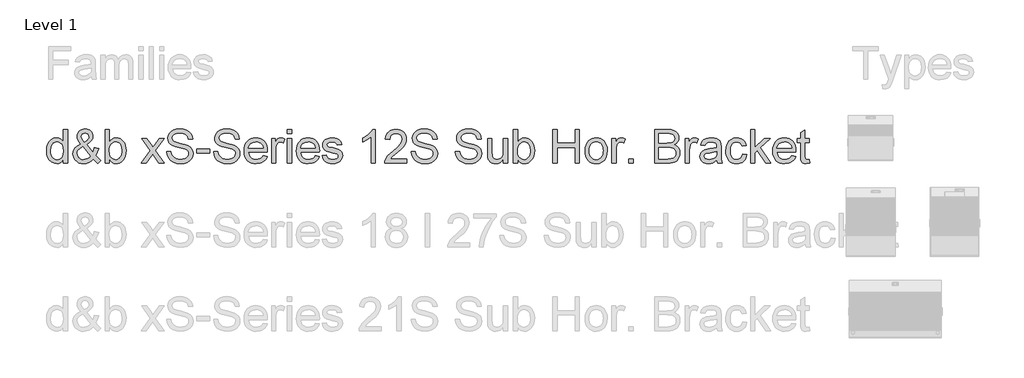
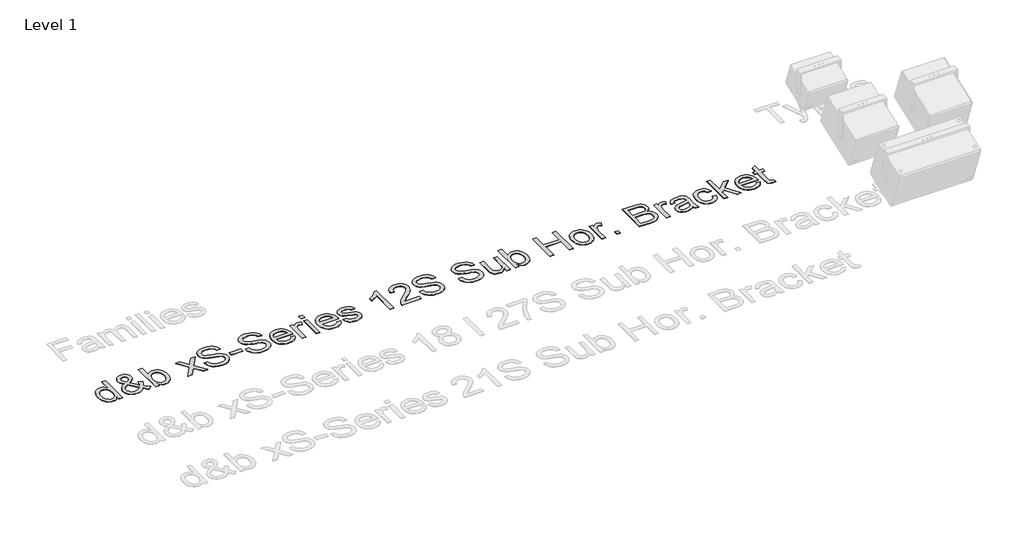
# One storey, part 16 of 55: 1 proxy.
"""IFC4 building model written with IfcOpenShell, lengths in millimetres."""

import ifcopenshell
import ifcopenshell.guid

model = None  # the IFC model being written
_history = None  # IfcOwnerHistory: only IFC2X3 demands one
_inside = {}  # id of a spatial element -> (the spatial element, [elements in it])
_under = {}  # id of a project, library or spatial element -> (it, [spatial elements below it])
_declared = {}  # id of a project -> (the project, [libraries it declares])
_typed = {}  # id of a type object -> (the type object, [elements of that type])
_made_of = {}  # id of a material, layer set ... -> (it, [elements and type objects made of it])


def new_model(schema):
    """Start an empty IFC model of exactly this schema.

    Asked for "IFC4X3", IfcOpenShell would pick the latest addendum, in which some entities
    have other attributes; the version numbers below select the first issue.
    IFC2X3 requires an IfcOwnerHistory on every rooted entity: one is made here for all.
    """
    global model, _history
    if schema == "IFC4X3":
        model = ifcopenshell.file(schema_version=(4, 3, 0, 0))
    else:
        model = ifcopenshell.file(schema=schema)
    _inside.clear()
    _under.clear()
    _declared.clear()
    _typed.clear()
    _made_of.clear()
    _history = None
    if model.schema == "IFC2X3":
        org = make("IfcOrganization", Name="unknown")
        user = make(
            "IfcPersonAndOrganization",
            ThePerson=make("IfcPerson", FamilyName="unknown"),
            TheOrganization=org,
        )
        app = make(
            "IfcApplication",
            ApplicationDeveloper=org,
            Version="unknown",
            ApplicationFullName="unknown",
            ApplicationIdentifier="unknown",
        )
        _history = make(
            "IfcOwnerHistory",
            OwningUser=user,
            OwningApplication=app,
            ChangeAction="ADDED",
            CreationDate=0,
        )
    return model


def make(cls, **values):
    """One entity of the class cls with the attributes given. An attribute that is None is left unset."""
    return model.create_entity(
        cls, **{name: value for name, value in values.items() if value is not None}
    )


def rooted(cls, **values):
    """An entity with a GlobalId (a new one), such as an element, a storey or a relation."""
    return make(cls, GlobalId=ifcopenshell.guid.new(), OwnerHistory=_history, **values)


def si_unit(unit_type, name, prefix=None):
    """IfcSIUnit, for example si_unit("LENGTHUNIT", "METRE", prefix="MILLI")."""
    return make("IfcSIUnit", UnitType=unit_type, Prefix=prefix, Name=name)


def assignment(units):
    """IfcUnitAssignment: the units of a project."""
    return None if units is None else make("IfcUnitAssignment", Units=units)


def point(xyz):
    """IfcCartesianPoint."""
    return None if xyz is None else make("IfcCartesianPoint", Coordinates=xyz)


def direction(xyz):
    """IfcDirection."""
    return None if xyz is None else make("IfcDirection", DirectionRatios=xyz)


def frame(location, z_axis=None, x_axis=None):
    """IfcAxis2Placement3D, a coordinate frame: its origin and axes. An axis left out is left unset."""
    return make(
        "IfcAxis2Placement3D",
        Location=point(location),
        Axis=direction(z_axis),
        RefDirection=direction(x_axis),
    )


def origin():
    """The frame at (0, 0, 0) with its axes left unset."""
    return frame((0.0, 0.0, 0.0))


def origin_with_axes():
    """The frame at (0, 0, 0) with the z axis (0, 0, 1) and the x axis (1, 0, 0) written out."""
    return frame((0.0, 0.0, 0.0), z_axis=(0.0, 0.0, 1.0), x_axis=(1.0, 0.0, 0.0))


def place(relative_to, where):
    """IfcLocalPlacement: puts the frame where relative to a parent placement (None: the world)."""
    return make(
        "IfcLocalPlacement", PlacementRelTo=relative_to, RelativePlacement=where
    )


def context(
    kind, dimensions, precision=None, world=None, true_north=None, identifier=None
):
    """IfcGeometricRepresentationContext, for example the 3D "Model" context."""
    return make(
        "IfcGeometricRepresentationContext",
        ContextIdentifier=identifier,
        ContextType=kind,
        CoordinateSpaceDimension=dimensions,
        Precision=precision,
        WorldCoordinateSystem=world,
        TrueNorth=true_north,
    )


def project(units=None, contexts=None):
    """IfcProject with its units and contexts."""
    return rooted(
        "IfcProject",
        Name="project",
        RepresentationContexts=contexts,
        UnitsInContext=assignment(units),
    )


def spatial(cls, under=None, at=None, **own):
    """A site, building, storey or space (cls), placed at a placement, below another one or the project."""
    s = rooted(cls, ObjectPlacement=at, **own)
    if under is not None:
        _under.setdefault(under.id(), (under, []))[1].append(s)
    return s


def polyline(points):
    """IfcPolyline through the points."""
    return make("IfcPolyline", Points=[point(p) for p in points])


def outline(outer, holes=None, kind="AREA"):
    """IfcArbitraryClosedProfileDef: a profile drawn as a closed curve; with holes, ...WithVoids."""
    if holes is None:
        return make("IfcArbitraryClosedProfileDef", ProfileType=kind, OuterCurve=outer)
    return make(
        "IfcArbitraryProfileDefWithVoids",
        ProfileType=kind,
        OuterCurve=outer,
        InnerCurves=holes,
    )


def extrude(swept, where, along, depth):
    """IfcExtrudedAreaSolid: the profile swept, set in the frame where, extruded along a direction by depth."""
    return make(
        "IfcExtrudedAreaSolid",
        SweptArea=swept,
        Position=where,
        ExtrudedDirection=direction(along),
        Depth=depth,
    )


def shape(context_of_items, identifier, shape_type, items):
    """IfcShapeRepresentation: the items that make up one representation, for example the "Body"."""
    return make(
        "IfcShapeRepresentation",
        ContextOfItems=context_of_items,
        RepresentationIdentifier=identifier,
        RepresentationType=shape_type,
        Items=items,
    )


def made_of(thing, what):
    """Note that an element or type object is made of a material, layer set ...; save() writes the relation."""
    if what is not None:
        _made_of.setdefault(what.id(), (what, []))[1].append(thing)
    return thing


def element(
    cls,
    number,
    at=None,
    inside=None,
    cuts=None,
    type_object=None,
    material=None,
    context=None,
    identifier="Body",
    shape_type=None,
    held_by="IfcProductDefinitionShape",
    body=None,
    shapes=None,
    **own,
):
    """One element of the class cls, such as IfcWall. Its Tag is "e" and its number.

    at: its placement. inside: the storey or other place that contains it. cuts: it is an
    opening in that element (IfcRelVoidsElement). A single representation is given by context,
    identifier, shape_type and body (its items); several are given by shapes. held_by: the class
    of the entity that holds the representations. save() writes the other relations.
    """
    e = rooted(cls, Tag="e%d" % number, ObjectPlacement=at, **own)
    if body is not None:
        shapes = [shape(context, identifier, shape_type, body)]
    if shapes is not None:
        e.Representation = make(held_by, Representations=shapes)
    if inside is not None:
        _inside.setdefault(inside.id(), (inside, []))[1].append(e)
    if cuts is not None:
        rooted(
            "IfcRelVoidsElement", RelatingBuildingElement=cuts, RelatedOpeningElement=e
        )
    if type_object is not None:
        _typed.setdefault(type_object.id(), (type_object, []))[1].append(e)
    return made_of(e, material)


def aggregate(whole, parts):
    """IfcRelAggregates: a whole, such as a stair, and the parts it consists of."""
    return rooted("IfcRelAggregates", RelatingObject=whole, RelatedObjects=parts)


def save(model, path):
    """Write the relations noted so far, then the file.

    IfcRelAggregates (storeys below a building ...), IfcRelContainedInSpatialStructure (elements
    in a storey), IfcRelDefinesByType, IfcRelAssociatesMaterial and IfcRelDeclares: one each for
    every whole, place, type object, material and project.
    """
    for whole, parts in _under.values():
        aggregate(whole, parts)
    for where, things in _inside.values():
        rooted(
            "IfcRelContainedInSpatialStructure",
            RelatedElements=things,
            RelatingStructure=where,
        )
    for kind, things in _typed.values():
        rooted("IfcRelDefinesByType", RelatedObjects=things, RelatingType=kind)
    for what, things in _made_of.values():
        rooted("IfcRelAssociatesMaterial", RelatedObjects=things, RelatingMaterial=what)
    for by, libraries in _declared.values():
        rooted("IfcRelDeclares", RelatingContext=by, RelatedDefinitions=libraries)
    model.write(path)


model = new_model("IFC4")

# Units and contexts
model_context = context("Model", 3, world=origin())
ifc_project = project(units=[si_unit("LENGTHUNIT", "METRE", prefix="MILLI")], contexts=[model_context])

# Site, building, storey
site = spatial("IfcSite", under=ifc_project)
building = spatial("IfcBuilding", under=site)
storey = spatial("IfcBuildingStorey", under=building, Name="Level 1", Elevation=0.0)

# Proxy
placement = place(None, origin())
element("IfcBuildingElementProxy", 1, Name="400mm Arial", ObjectType="400mm Arial", at=placement, inside=storey, context=model_context, shape_type="SweptSolid", body=[
    extrude(outline(polyline([(-20879.8211974, -20648.6945164), (-20879.8211974, -20601.3113154), (-20894.8491769, -20624.7883181), (-20913.0532043, -20641.5576057), (-20934.4332796, -20651.6191783), (-20958.9894028, -20654.9730358), (-20991.4611202, -20650.1169935), (-21021.1859854, -20635.5488665), (-21046.3491139, -20612.2864616), (-21065.1356211, -20581.3475858), (-21076.8342686, -20543.9830379), (-21080.7338177, -20501.4436165), (-21077.1408369, -20459.4314926), (-21066.3618945, -20421.4905962), (-21048.4092531, -20389.7791682), (-21023.2951755, -20366.4554497), (-20992.9203855, -20352.1080519), (-20959.1856065, -20347.325586), (-20934.6110892, -20350.7468885), (-20912.8815261, -20361.0107962), (-20894.4629008, -20376.7438829), (-20879.8211974, -20396.5727224), (-20879.8211974, -20246.8692758), (-20829.5930424, -20246.8692758), (-20829.5930424, -20648.6945164), (-20879.8211974, -20648.6945164)]), holes=[polyline([(-21030.5056627, -20501.2474128), (-21029.089317, -20525.6042665), (-21024.8402799, -20546.6808392), (-21017.7585515, -20564.4771307), (-21007.8441318, -20578.9931411), (-20983.1469871, -20598.3069458), (-20969.2717046, -20603.135397), (-20954.3786151, -20604.7448807), (-20939.415015, -20603.2089734), (-20925.6225058, -20598.6012514), (-20901.5507606, -20580.1703635), (-20892.0440767, -20566.2613584), (-20885.2535882, -20549.1088603), (-20879.8211974, -20505.0733855), (-20885.3516901, -20456.9298951), (-20892.2648059, -20438.3947739), (-20901.9431681, -20423.5507354), (-20913.6448812, -20412.1770504), (-20926.6280499, -20404.0529896), (-20940.8926743, -20399.1785532), (-20956.4387543, -20397.5537411), (-20971.6261493, -20399.1141738), (-20985.5014319, -20403.7954722), (-20998.064602, -20411.5976362), (-21009.3156597, -20422.5206658), (-21018.586286, -20436.8036843), (-21025.2081619, -20454.6858149), (-21030.5056627, -20501.2474128)])]), origin_with_axes(), (0.0, 0.0, 1.0), 5.0),
    extrude(outline(polyline([(-20523.809528, -20599.0549725), (-20549.3405384, -20623.5191252), (-20577.0788409, -20640.99352), (-20607.0734862, -20651.4781569), (-20639.3735254, -20654.9730358), (-20668.6814577, -20652.3855991), (-20694.8010793, -20644.623289), (-20717.7323904, -20631.6861055), (-20737.4753908, -20613.5740486), (-20750.308341, -20596.2038871), (-20759.4747341, -20577.8404442), (-20764.9745699, -20558.4837198), (-20766.8078485, -20538.1337141), (-20760.9094739, -20502.9396699), (-20743.2143499, -20471.3263438), (-20713.796053, -20443.3182613), (-20672.7281596, -20418.9399477), (-20694.6416638, -20390.5885086), (-20707.7995765, -20368.1231814), (-20714.3846642, -20348.9442668), (-20716.5796934, -20330.4520651), (-20714.8506481, -20312.8979626), (-20709.6635119, -20296.5333452), (-20701.018285, -20281.3582129), (-20688.9149674, -20267.3725657), (-20674.1935562, -20255.6555241), (-20657.6940487, -20247.2862088), (-20639.4164449, -20242.2646195), (-20619.3607448, -20240.5907564), (-20600.212487, -20242.1910431), (-20582.8913764, -20246.9919032), (-20567.397413, -20254.9933366), (-20553.7305969, -20266.1953433), (-20542.5715097, -20279.6414302), (-20534.6007332, -20294.3751041), (-20529.8182672, -20310.396365), (-20528.2241119, -20327.7052129), (-20532.9452642, -20355.68877), (-20547.108721, -20381.563137), (-20570.7144823, -20405.3283139), (-20603.7625482, -20426.9843007), (-20531.069066, -20517.5323224), (-20518.6837055, -20491.6579554), (-20509.3885538, -20461.9085647), (-20459.1603987, -20472.7978718), (-20474.6114425, -20519.3226815), (-20494.6732739, -20555.4977443), (-20466.1256311, -20588.8033276), (-20434.0463211, -20616.3209009), (-20471.7174374, -20654.9730358), (-20497.3465498, -20631.52669), (-20523.809528, -20599.0549725)]), holes=[polyline([(-20557.4584678, -20562.8553842), (-20647.1235727, -20450.9211558), (-20681.3733865, -20472.7733463), (-20702.305872, -20493.0068561), (-20713.0112381, -20512.3329235), (-20716.5796934, -20531.4627873), (-20711.6991256, -20555.1543878), (-20697.0574222, -20579.7289051), (-20686.2784798, -20590.6733944), (-20673.4639236, -20598.4908868), (-20658.6137537, -20603.1813823), (-20641.7279702, -20604.7448807), (-20619.0051256, -20601.8263502), (-20595.5710425, -20593.0707588), (-20574.1480476, -20579.6798541), (-20557.4584678, -20562.8553842)]), polyline([(-20629.1709314, -20395.2973981), (-20602.9041569, -20378.6323438), (-20587.8700461, -20364.1500559), (-20580.8067117, -20350.0601755), (-20578.452267, -20334.5723435), (-20581.5547385, -20317.0243723), (-20590.862153, -20303.0325938), (-20604.829406, -20293.8723321), (-20621.9113933, -20290.8189115), (-20639.3612626, -20293.8478066), (-20653.6473468, -20302.9344919), (-20663.1754905, -20316.3867102), (-20666.3515384, -20332.5122043), (-20662.0350563, -20350.9063041), (-20648.9875082, -20371.360543), (-20629.1709314, -20395.2973981)])]), origin_with_axes(), (0.0, 0.0, 1.0), 5.0),
    extrude(outline(polyline([(-20333.590011, -20648.6945164), (-20383.8181661, -20648.6945164), (-20383.8181661, -20246.8692758), (-20333.590011, -20246.8692758), (-20333.590011, -20395.8860093), (-20317.0721094, -20374.6408241), (-20298.4204923, -20359.4656918), (-20277.6351595, -20350.3606124), (-20254.7161112, -20347.325586), (-20228.8417442, -20350.0601755), (-20204.3898543, -20358.263944), (-20182.758393, -20371.4218567), (-20165.3453119, -20389.0188788), (-20151.6968898, -20410.883332), (-20141.3594058, -20436.8435381), (-20134.8478945, -20465.8203766), (-20132.6773907, -20496.734727), (-20134.9245365, -20532.4070178), (-20141.6659741, -20563.7873519), (-20152.9017034, -20590.8757295), (-20168.6317244, -20613.6721505), (-20187.5132678, -20631.7412878), (-20208.2035643, -20644.6478145), (-20230.702614, -20652.3917305), (-20255.0104168, -20654.9730358), (-20278.6836232, -20651.6437038), (-20299.671291, -20641.6557076), (-20317.9734203, -20625.0090473), (-20333.590011, -20601.7037229), (-20333.590011, -20648.6945164)]), holes=[polyline([(-20333.590011, -20499.0891717), (-20330.1564457, -20540.9786682), (-20319.8557498, -20569.3301073), (-20307.6849872, -20584.8240707), (-20293.5399244, -20595.8911874), (-20277.4205617, -20602.5314574), (-20259.3268989, -20604.7448807), (-20244.3050508, -20603.1139372), (-20230.3377977, -20598.2211067), (-20217.4251396, -20590.0663891), (-20205.5670767, -20578.6497845), (-20195.6526569, -20564.0019498), (-20188.5709285, -20546.1535416), (-20184.3218914, -20525.1045601), (-20182.9055458, -20500.8550053), (-20188.3379366, -20454.8942814), (-20195.1284251, -20437.1010555), (-20204.6351089, -20422.7659205), (-20216.0670419, -20411.735592), (-20228.6332778, -20403.8567859), (-20242.3338164, -20399.1295023), (-20257.1686579, -20397.5537411), (-20272.190506, -20399.1846846), (-20286.1577591, -20404.0775151), (-20299.0704171, -20412.2322327), (-20310.9284801, -20423.6488372), (-20320.8428999, -20438.1495192), (-20327.9246283, -20455.556469), (-20332.1736653, -20475.8696865), (-20333.590011, -20499.0891717)])]), origin_with_axes(), (0.0, 0.0, 1.0), 5.0),
    extrude(outline(polyline([(-19950.6003285, -20648.6945164), (-19843.2768878, -20500.2663941), (-19944.3218092, -20353.6041054), (-19884.0872638, -20353.6041054), (-19835.3306367, -20424.3355503), (-19812.4729021, -20457.5920827), (-19792.6563253, -20430.3197641), (-19737.1306695, -20353.6041054), (-19676.6999204, -20353.6041054), (-19782.8461387, -20500.364496), (-19680.623995, -20648.6945164), (-19740.9566422, -20648.6945164), (-19802.5646137, -20559.4218189), (-19813.7482263, -20543.0388074), (-19890.1695795, -20648.6945164), (-19950.6003285, -20648.6945164)])), origin_with_axes(), (0.0, 0.0, 1.0), 5.0),
    extrude(outline(polyline([(-19649.2313981, -20510.56709), (-19599.003243, -20510.56709), (-19593.2397584, -20538.4402825), (-19582.8164352, -20560.844296), (-19566.556051, -20578.6252591), (-19543.2813835, -20592.6293004), (-19514.8318425, -20601.7159856), (-19483.0468381, -20604.7448807), (-19455.063281, -20602.4517496), (-19430.5623402, -20595.5723563), (-19410.7089752, -20584.6830493), (-19396.6681457, -20570.3601769), (-19388.3172244, -20553.9158517), (-19385.533584, -20536.6621862), (-19387.6182486, -20519.849979), (-19393.8722425, -20505.3186402), (-19406.5764341, -20492.9210169), (-19428.0116917, -20482.5099565), (-19501.1466323, -20463.3310418), (-19549.1552327, -20450.639113), (-19579.8733793, -20438.5603208), (-19604.8770922, -20421.6622745), (-19622.5967416, -20401.1835101), (-19633.1549549, -20377.565486), (-19636.6743593, -20351.2496606), (-19632.3210891, -20321.8313637), (-19619.2612782, -20294.3996296), (-19597.8382834, -20271.1494875), (-19568.395461, -20254.2759667), (-19533.054264, -20244.012059), (-19493.9361452, -20240.5907564), (-19451.5561394, -20244.1714745), (-19414.4736342, -20254.9136288), (-19384.013005, -20272.59649), (-19361.4986269, -20296.999329), (-19347.249331, -20326.6015669), (-19341.5839483, -20359.8826247), (-19391.8121033, -20359.8826247), (-19401.0336787, -20329.9125049), (-19409.3968627, -20318.0544419), (-19420.2616443, -20308.2810436), (-19450.3053406, -20295.1844445), (-19491.9741079, -20290.8189115), (-19534.6238939, -20295.1353936), (-19550.9271976, -20300.5309962), (-19563.8827752, -20308.0848398), (-19580.805347, -20327.1411272), (-19586.4462043, -20349.7781326), (-19582.4485532, -20369.0796746), (-19570.4556002, -20384.6042948), (-19542.1041611, -20398.4857088), (-19488.4424407, -20412.6614283), (-19433.0639377, -20426.1259093), (-19399.5621507, -20437.8736077), (-19370.9286687, -20456.0960292), (-19350.9526764, -20478.5858819), (-19339.2172408, -20505.097911), (-19335.3054289, -20535.3868619), (-19339.805852, -20566.3502632), (-19353.3071212, -20595.4742545), (-19375.2574136, -20620.5392811), (-19405.1049061, -20639.3257883), (-19440.9979261, -20651.0612239), (-19481.0848008, -20654.9730358), (-19530.2951491, -20650.7546556), (-19570.7989567, -20638.099515), (-19603.0622077, -20616.958563), (-19627.5508858, -20587.2827487), (-19643.2717098, -20551.1322113), (-19649.2313981, -20510.56709)])), origin_with_axes(), (0.0, 0.0, 1.0), 5.0),
    extrude(outline(polyline([(-19291.3557932, -20529.4026481), (-19291.3557932, -20479.174493), (-19134.3928086, -20479.174493), (-19134.3928086, -20529.4026481), (-19291.3557932, -20529.4026481)])), origin_with_axes(), (0.0, 0.0, 1.0), 5.0),
    extrude(outline(polyline([(-19090.4431729, -20510.56709), (-19040.2150178, -20510.56709), (-19034.4515332, -20538.4402825), (-19024.02821, -20560.844296), (-19007.7678258, -20578.6252591), (-18984.4931583, -20592.6293004), (-18956.0436173, -20601.7159856), (-18924.2586129, -20604.7448807), (-18896.2750558, -20602.4517496), (-18871.774115, -20595.5723563), (-18851.9207499, -20584.6830493), (-18837.8799205, -20570.3601769), (-18829.5289992, -20553.9158517), (-18826.7453587, -20536.6621862), (-18828.8300234, -20519.849979), (-18835.0840173, -20505.3186402), (-18847.7882089, -20492.9210169), (-18869.2234665, -20482.5099565), (-18942.3584071, -20463.3310418), (-18990.3670075, -20450.639113), (-19021.0851541, -20438.5603208), (-19046.088867, -20421.6622745), (-19063.8085164, -20401.1835101), (-19074.3667297, -20377.565486), (-19077.8861341, -20351.2496606), (-19073.5328638, -20321.8313637), (-19060.473053, -20294.3996296), (-19039.0500582, -20271.1494875), (-19009.6072358, -20254.2759667), (-18974.2660388, -20244.012059), (-18935.14792, -20240.5907564), (-18892.7679141, -20244.1714745), (-18855.685409, -20254.9136288), (-18825.2247798, -20272.59649), (-18802.7104017, -20296.999329), (-18788.4611058, -20326.6015669), (-18782.7957231, -20359.8826247), (-18833.0238781, -20359.8826247), (-18842.2454535, -20329.9125049), (-18850.6086375, -20318.0544419), (-18861.4734191, -20308.2810436), (-18891.5171154, -20295.1844445), (-18933.1858827, -20290.8189115), (-18975.8356687, -20295.1353936), (-18992.1389724, -20300.5309962), (-19005.09455, -20308.0848398), (-19022.0171218, -20327.1411272), (-19027.657979, -20349.7781326), (-19023.660328, -20369.0796746), (-19011.667375, -20384.6042948), (-18983.3159359, -20398.4857088), (-18929.6542155, -20412.6614283), (-18874.2757125, -20426.1259093), (-18840.7739255, -20437.8736077), (-18812.1404435, -20456.0960292), (-18792.1644512, -20478.5858819), (-18780.4290156, -20505.097911), (-18776.5172037, -20535.3868619), (-18781.0176267, -20566.3502632), (-18794.518896, -20595.4742545), (-18816.4691883, -20620.5392811), (-18846.3166809, -20639.3257883), (-18882.2097009, -20651.0612239), (-18922.2965756, -20654.9730358), (-18971.5069238, -20650.7546556), (-19012.0107315, -20638.099515), (-19044.2739825, -20616.958563), (-19068.7626606, -20587.2827487), (-19084.4834846, -20551.1322113), (-19090.4431729, -20510.56709)])), origin_with_axes(), (0.0, 0.0, 1.0), 5.0),
    extrude(outline(polyline([(-18500.850962, -20560.795245), (-18451.6038255, -20567.0737644), (-18459.1546035, -20586.7983707), (-18469.3480004, -20604.180795), (-18482.1840164, -20619.2210372), (-18497.6626513, -20631.9190974), (-18515.6244897, -20642.0051955), (-18535.9101161, -20649.2095512), (-18583.4527326, -20654.9730358), (-18614.618469, -20652.4867667), (-18642.3874282, -20645.0279592), (-18666.7596104, -20632.5966135), (-18687.7350155, -20615.1927294), (-18704.602405, -20593.300685), (-18716.6505403, -20567.4048582), (-18723.8794215, -20537.5052491), (-18726.2890486, -20503.6018575), (-18723.8548961, -20468.5488348), (-18716.5524385, -20437.6528785), (-18704.3816758, -20410.9139888), (-18687.342608, -20388.3321657), (-18666.4223852, -20370.3917871), (-18642.6081574, -20357.5772309), (-18615.8999246, -20349.8884972), (-18586.2976867, -20347.325586), (-18557.6488763, -20349.8823658), (-18531.7407868, -20357.5527054), (-18508.5734182, -20370.3366048), (-18488.1467704, -20388.2340638), (-18471.472519, -20410.766836), (-18459.5623394, -20437.4566748), (-18452.4162316, -20468.3035801), (-18450.0341957, -20503.3075519), (-18450.3285013, -20516.8456094), (-18676.0608935, -20516.8456094), (-18673.1515601, -20536.8890467), (-18667.3666157, -20554.4431493), (-18658.7060604, -20569.507917), (-18647.1698942, -20582.0833498), (-18633.3957791, -20591.9977696), (-18618.0213774, -20599.079498), (-18582.4717139, -20604.7448807), (-18555.7389556, -20602.1206558), (-18533.2245775, -20594.2479811), (-18514.9285796, -20580.6363473), (-18500.850962, -20560.795245)]), holes=[polyline([(-18676.0608935, -20466.6174543), (-18500.2623508, -20466.6174543), (-18507.0559049, -20440.0808997), (-18520.3732332, -20421.0981887), (-18534.0707061, -20410.7974929), (-18549.65664, -20403.439853), (-18567.1310348, -20399.025269), (-18586.4938904, -20397.5537411), (-18620.3512967, -20402.2503679), (-18648.3471166, -20416.3402483), (-18667.8080741, -20438.3028034), (-18676.0608935, -20466.6174543)])]), origin_with_axes(), (0.0, 0.0, 1.0), 5.0),
    extrude(outline(polyline([(-18399.8060406, -20648.6945164), (-18399.8060406, -20353.6041054), (-18355.8564049, -20353.6041054), (-18355.8564049, -20397.2594355), (-18339.6205462, -20371.9491542), (-18324.6600117, -20357.0376707), (-18309.6504263, -20349.7536071), (-18293.2674148, -20347.325586), (-18268.2514391, -20351.2006097), (-18242.843056, -20362.8256807), (-18259.618475, -20407.8544369), (-18277.2768108, -20400.128915), (-18294.9351465, -20397.5537411), (-18309.9324692, -20400.0308132), (-18323.3356365, -20407.4620295), (-18334.1636299, -20419.2833042), (-18341.4354307, -20434.9305518), (-18347.5422718, -20462.9876853), (-18349.5778855, -20493.5954673), (-18349.5778855, -20648.6945164), (-18399.8060406, -20648.6945164)])), origin_with_axes(), (0.0, 0.0, 1.0), 5.0),
    extrude(outline(polyline([(-18211.4504591, -20297.0974309), (-18211.4504591, -20246.8692758), (-18161.222304, -20246.8692758), (-18161.222304, -20297.0974309), (-18211.4504591, -20297.0974309)])), origin_with_axes(), (0.0, 0.0, 1.0), 5.0),
    extrude(outline(polyline([(-18211.4504591, -20648.6945164), (-18211.4504591, -20353.6041054), (-18161.222304, -20353.6041054), (-18161.222304, -20648.6945164), (-18211.4504591, -20648.6945164)])), origin_with_axes(), (0.0, 0.0, 1.0), 5.0),
    extrude(outline(polyline([(-17879.2775429, -20560.795245), (-17830.0304065, -20567.0737644), (-17837.5811844, -20586.7983707), (-17847.7745814, -20604.180795), (-17860.6105973, -20619.2210372), (-17876.0892323, -20631.9190974), (-17894.0510707, -20642.0051955), (-17914.336697, -20649.2095512), (-17961.8793136, -20654.9730358), (-17993.0450499, -20652.4867667), (-18020.8140092, -20645.0279592), (-18045.1861914, -20632.5966135), (-18066.1615965, -20615.1927294), (-18083.0289859, -20593.300685), (-18095.0771213, -20567.4048582), (-18102.3060025, -20537.5052491), (-18104.7156295, -20503.6018575), (-18102.281477, -20468.5488348), (-18094.9790194, -20437.6528785), (-18082.8082567, -20410.9139888), (-18065.769189, -20388.3321657), (-18044.8489662, -20370.3917871), (-18021.0347384, -20357.5772309), (-17994.3265055, -20349.8884972), (-17964.7242676, -20347.325586), (-17936.0754573, -20349.8823658), (-17910.1673678, -20357.5527054), (-17886.9999991, -20370.3366048), (-17866.5733513, -20388.2340638), (-17849.8990999, -20410.766836), (-17837.9889203, -20437.4566748), (-17830.8428126, -20468.3035801), (-17828.4607766, -20503.3075519), (-17828.7550822, -20516.8456094), (-18054.4874745, -20516.8456094), (-18051.578141, -20536.8890467), (-18045.7931967, -20554.4431493), (-18037.1326413, -20569.507917), (-18025.5964751, -20582.0833498), (-18011.8223601, -20591.9977696), (-17996.4479584, -20599.079498), (-17960.8982949, -20604.7448807), (-17934.1655366, -20602.1206558), (-17911.6511585, -20594.2479811), (-17893.3551606, -20580.6363473), (-17879.2775429, -20560.795245)]), holes=[polyline([(-18054.4874745, -20466.6174543), (-17878.6889317, -20466.6174543), (-17885.4824859, -20440.0808997), (-17898.7998141, -20421.0981887), (-17912.4972871, -20410.7974929), (-17928.0832209, -20403.439853), (-17945.5576157, -20399.025269), (-17964.9204714, -20397.5537411), (-17998.7778777, -20402.2503679), (-18026.7736975, -20416.3402483), (-18046.234655, -20438.3028034), (-18054.4874745, -20466.6174543)])]), origin_with_axes(), (0.0, 0.0, 1.0), 5.0),
    extrude(outline(polyline([(-17797.0681797, -20560.795245), (-17746.8400246, -20554.5167257), (-17738.918299, -20576.0010342), (-17723.5898825, -20591.7954345), (-17700.7566734, -20601.5075192), (-17670.3205696, -20604.7448807), (-17640.2523479, -20601.7772993), (-17619.1113959, -20592.874555), (-17606.6034081, -20579.9741597), (-17602.4340788, -20565.0136253), (-17606.6279335, -20552.2113318), (-17619.2094978, -20542.4501962), (-17670.9091808, -20528.1273239), (-17746.545719, -20503.5528066), (-17765.6878455, -20491.2042343), (-17779.5569967, -20474.858011), (-17787.9814944, -20455.556469), (-17790.7896603, -20434.3419406), (-17788.5333174, -20414.880983), (-17781.7642887, -20396.9160789), (-17771.0957109, -20381.1584668), (-17757.1407205, -20368.3193852), (-17725.2085633, -20353.4569526), (-17704.3251287, -20348.8584276), (-17681.9946916, -20347.325586), (-17649.302245, -20349.7903953), (-17620.8772295, -20357.1848234), (-17598.0194949, -20368.785369), (-17582.0288908, -20383.8685308), (-17571.4338893, -20403.5502176), (-17564.7629625, -20428.946338), (-17614.9911176, -20435.2248574), (-17621.3309506, -20419.4181943), (-17633.8757267, -20407.5110804), (-17652.748073, -20400.0430759), (-17678.070617, -20397.5537411), (-17706.9125654, -20399.9327113), (-17726.140531, -20407.069622), (-17736.9562617, -20417.3703179), (-17740.5615053, -20429.2406436), (-17734.5772915, -20443.8578215), (-17715.8398352, -20454.9433323), (-17672.5769125, -20465.6364356), (-17598.8533607, -20489.2789852), (-17579.3801404, -20500.5852252), (-17564.6158097, -20516.0607944), (-17555.3083952, -20535.7547439), (-17552.2059237, -20559.7161245), (-17555.8479555, -20584.4868455), (-17566.7740507, -20607.7860386), (-17584.5672766, -20627.7865564), (-17608.8107, -20642.6612517), (-17638.0941069, -20651.8950898), (-17671.0072827, -20654.9730358), (-17698.040478, -20653.4892451), (-17721.6523707, -20649.037873), (-17741.8429609, -20641.6189194), (-17758.6122485, -20631.2323844), (-17772.3097214, -20617.9273189), (-17783.2848676, -20601.7527738), (-17791.5376871, -20582.7087492), (-17797.0681797, -20560.795245)])), origin_with_axes(), (0.0, 0.0, 1.0), 5.0),
    extrude(outline(polyline([(-17162.9377219, -20648.6945164), (-17213.165877, -20648.6945164), (-17213.165877, -20335.5533621), (-17234.1351507, -20352.5127221), (-17260.7452817, -20369.4475566), (-17313.6221871, -20394.8068888), (-17313.6221871, -20347.325586), (-17274.1729745, -20325.8658029), (-17239.9967371, -20300.3347925), (-17213.0555124, -20273.1851012), (-17195.3113375, -20246.8692758), (-17162.9377219, -20246.8692758), (-17162.9377219, -20648.6945164)])), origin_with_axes(), (0.0, 0.0, 1.0), 5.0),
    extrude(outline(polyline([(-16786.2265588, -20598.4663614), (-16786.2265588, -20648.6945164), (-17049.924373, -20648.6945164), (-17048.820727, -20631.0116552), (-17044.5287704, -20614.0645579), (-17032.1311471, -20587.0007058), (-17013.9700393, -20560.7461941), (-16987.7155276, -20533.2654091), (-16951.0376927, -20502.522737), (-16896.8486748, -20454.3792466), (-16864.3646946, -20418.8418458), (-16848.1410986, -20389.9998974), (-16842.7332333, -20361.9427639), (-16847.846793, -20336.7918982), (-16863.1874722, -20315.8839381), (-16886.7687081, -20301.7940577), (-16916.6039379, -20297.0974309), (-16947.9352212, -20301.6836931), (-16972.2767465, -20315.4424797), (-16987.9853077, -20337.2946702), (-16993.4176985, -20366.1611441), (-17043.6458536, -20359.8826247), (-17039.3263058, -20333.9530755), (-17031.4689596, -20311.2976759), (-17020.0738147, -20291.9164261), (-17005.1408714, -20275.8093261), (-16987.0134861, -20263.1480541), (-16966.0350153, -20254.1042884), (-16942.2054591, -20248.678029), (-16915.5248174, -20246.8692758), (-16888.6050524, -20248.8803641), (-16864.6467375, -20254.9136288), (-16843.6498726, -20264.96907), (-16825.6144578, -20279.0466877), (-16811.1291042, -20296.1041495), (-16800.7824231, -20315.0991232), (-16794.5744144, -20336.0316087), (-16792.5050782, -20358.9016061), (-16794.7368957, -20382.9243004), (-16801.432348, -20406.5300617), (-16813.3149364, -20430.5404933), (-16831.1081622, -20455.7771982), (-16859.4718641, -20485.9067336), (-16903.0658805, -20524.5956567), (-16960.8478792, -20572.9108254), (-16983.5094101, -20598.4663614), (-16786.2265588, -20598.4663614)])), origin_with_axes(), (0.0, 0.0, 1.0), 5.0),
    extrude(outline(polyline([(-16735.9984038, -20510.56709), (-16685.7702487, -20510.56709), (-16680.0067641, -20538.4402825), (-16669.5834409, -20560.844296), (-16653.3230567, -20578.6252591), (-16630.0483891, -20592.6293004), (-16601.5988482, -20601.7159856), (-16569.8138438, -20604.7448807), (-16541.8302867, -20602.4517496), (-16517.3293458, -20595.5723563), (-16497.4759808, -20584.6830493), (-16483.4351513, -20570.3601769), (-16475.08423, -20553.9158517), (-16472.3005896, -20536.6621862), (-16474.3852543, -20519.849979), (-16480.6392482, -20505.3186402), (-16493.3434397, -20492.9210169), (-16514.7786973, -20482.5099565), (-16587.913638, -20463.3310418), (-16635.9222383, -20450.639113), (-16666.6403849, -20438.5603208), (-16691.6440979, -20421.6622745), (-16709.3637473, -20401.1835101), (-16719.9219606, -20377.565486), (-16723.441365, -20351.2496606), (-16719.0880947, -20321.8313637), (-16706.0282839, -20294.3996296), (-16684.605289, -20271.1494875), (-16655.1624667, -20254.2759667), (-16619.8212697, -20244.012059), (-16580.7031509, -20240.5907564), (-16538.323145, -20244.1714745), (-16501.2406399, -20254.9136288), (-16470.7800107, -20272.59649), (-16448.2656326, -20296.999329), (-16434.0163367, -20326.6015669), (-16428.3509539, -20359.8826247), (-16478.579109, -20359.8826247), (-16487.8006843, -20329.9125049), (-16496.1638684, -20318.0544419), (-16507.02865, -20308.2810436), (-16537.0723462, -20295.1844445), (-16578.7411136, -20290.8189115), (-16621.3908995, -20295.1353936), (-16637.6942033, -20300.5309962), (-16650.6497809, -20308.0848398), (-16667.5723527, -20327.1411272), (-16673.2132099, -20349.7781326), (-16669.2155589, -20369.0796746), (-16657.2226059, -20384.6042948), (-16628.8711668, -20398.4857088), (-16575.2094464, -20412.6614283), (-16519.8309434, -20426.1259093), (-16486.3291564, -20437.8736077), (-16457.6956744, -20456.0960292), (-16437.7196821, -20478.5858819), (-16425.9842464, -20505.097911), (-16422.0724345, -20535.3868619), (-16426.5728576, -20566.3502632), (-16440.0741268, -20595.4742545), (-16462.0244192, -20620.5392811), (-16491.8719118, -20639.3257883), (-16527.7649318, -20651.0612239), (-16567.8518065, -20654.9730358), (-16617.0621547, -20650.7546556), (-16657.5659624, -20638.099515), (-16689.8292134, -20616.958563), (-16714.3178915, -20587.2827487), (-16730.0387154, -20551.1322113), (-16735.9984038, -20510.56709)])), origin_with_axes(), (0.0, 0.0, 1.0), 5.0),
    extrude(outline(polyline([(-16208.6027755, -20510.56709), (-16158.3746204, -20510.56709), (-16152.6111358, -20538.4402825), (-16142.1878126, -20560.844296), (-16125.9274284, -20578.6252591), (-16102.6527609, -20592.6293004), (-16074.2032199, -20601.7159856), (-16042.4182155, -20604.7448807), (-16014.4346584, -20602.4517496), (-15989.9337175, -20595.5723563), (-15970.0803525, -20584.6830493), (-15956.0395231, -20570.3601769), (-15947.6886018, -20553.9158517), (-15944.9049613, -20536.6621862), (-15946.989626, -20519.849979), (-15953.2436199, -20505.3186402), (-15965.9478115, -20492.9210169), (-15987.383069, -20482.5099565), (-16060.5180097, -20463.3310418), (-16108.5266101, -20450.639113), (-16139.2447566, -20438.5603208), (-16164.2484696, -20421.6622745), (-16181.968119, -20401.1835101), (-16192.5263323, -20377.565486), (-16196.0457367, -20351.2496606), (-16191.6924664, -20321.8313637), (-16178.6326556, -20294.3996296), (-16157.2096607, -20271.1494875), (-16127.7668384, -20254.2759667), (-16092.4256414, -20244.012059), (-16053.3075226, -20240.5907564), (-16010.9275167, -20244.1714745), (-15973.8450116, -20254.9136288), (-15943.3843824, -20272.59649), (-15920.8700043, -20296.999329), (-15906.6207084, -20326.6015669), (-15900.9553256, -20359.8826247), (-15951.1834807, -20359.8826247), (-15960.4050561, -20329.9125049), (-15968.7682401, -20318.0544419), (-15979.6330217, -20308.2810436), (-16009.6767179, -20295.1844445), (-16051.3454853, -20290.8189115), (-16093.9952712, -20295.1353936), (-16110.298575, -20300.5309962), (-16123.2541526, -20308.0848398), (-16140.1767244, -20327.1411272), (-16145.8175816, -20349.7781326), (-16141.8199306, -20369.0796746), (-16129.8269776, -20384.6042948), (-16101.4755385, -20398.4857088), (-16047.8138181, -20412.6614283), (-15992.4353151, -20426.1259093), (-15958.9335281, -20437.8736077), (-15930.3000461, -20456.0960292), (-15910.3240538, -20478.5858819), (-15898.5886181, -20505.097911), (-15894.6768063, -20535.3868619), (-15899.1772293, -20566.3502632), (-15912.6784986, -20595.4742545), (-15934.6287909, -20620.5392811), (-15964.4762835, -20639.3257883), (-16000.3693035, -20651.0612239), (-16040.4561782, -20654.9730358), (-16089.6665264, -20650.7546556), (-16130.1703341, -20638.099515), (-16162.4335851, -20616.958563), (-16186.9222632, -20587.2827487), (-16202.6430872, -20551.1322113), (-16208.6027755, -20510.56709)])), origin_with_axes(), (0.0, 0.0, 1.0), 5.0),
    extrude(outline(polyline([(-15637.2575115, -20648.6945164), (-15637.2575115, -20597.975852), (-15655.4308821, -20622.9121199), (-15676.5963595, -20640.7237399), (-15700.7539439, -20651.4107118), (-15727.9036351, -20654.9730358), (-15752.3677878, -20652.4714382), (-15775.1396833, -20644.9666455), (-15794.2450216, -20633.684931), (-15807.7095026, -20619.852568), (-15816.7716624, -20603.0526236), (-15822.6700371, -20582.8681648), (-15825.613093, -20536.1716768), (-15825.613093, -20353.6041054), (-15775.384938, -20353.6041054), (-15775.384938, -20512.5291273), (-15772.3437801, -20563.738301), (-15765.0229284, -20580.8202883), (-15752.4781524, -20593.8065227), (-15735.5433179, -20602.0102912), (-15715.0522907, -20604.7448807), (-15693.3840412, -20601.9489776), (-15673.1137433, -20593.5612681), (-15656.399638, -20580.3543045), (-15645.3999663, -20563.1006389), (-15639.2931252, -20539.4703521), (-15637.2575115, -20507.1335247), (-15637.2575115, -20353.6041054), (-15587.0293564, -20353.6041054), (-15587.0293564, -20648.6945164), (-15637.2575115, -20648.6945164)])), origin_with_axes(), (0.0, 0.0, 1.0), 5.0),
    extrude(outline(polyline([(-15467.7374881, -20648.6945164), (-15517.9656432, -20648.6945164), (-15517.9656432, -20246.8692758), (-15467.7374881, -20246.8692758), (-15467.7374881, -20395.8860093), (-15451.2195865, -20374.6408241), (-15432.5679694, -20359.4656918), (-15411.7826367, -20350.3606124), (-15388.8635884, -20347.325586), (-15362.9892214, -20350.0601755), (-15338.5373314, -20358.263944), (-15316.9058701, -20371.4218567), (-15299.492789, -20389.0188788), (-15285.844367, -20410.883332), (-15275.5068829, -20436.8435381), (-15268.9953716, -20465.8203766), (-15266.8248678, -20496.734727), (-15269.0720137, -20532.4070178), (-15275.8134512, -20563.7873519), (-15287.0491805, -20590.8757295), (-15302.7792015, -20613.6721505), (-15321.6607449, -20631.7412878), (-15342.3510414, -20644.6478145), (-15364.8500911, -20652.3917305), (-15389.1578939, -20654.9730358), (-15412.8311003, -20651.6437038), (-15433.8187682, -20641.6557076), (-15452.1208974, -20625.0090473), (-15467.7374881, -20601.7037229), (-15467.7374881, -20648.6945164)]), holes=[polyline([(-15467.7374881, -20499.0891717), (-15464.3039228, -20540.9786682), (-15454.003227, -20569.3301073), (-15441.8324643, -20584.8240707), (-15427.6874016, -20595.8911874), (-15411.5680388, -20602.5314574), (-15393.474376, -20604.7448807), (-15378.4525279, -20603.1139372), (-15364.4852748, -20598.2211067), (-15351.5726168, -20590.0663891), (-15339.7145538, -20578.6497845), (-15329.800134, -20564.0019498), (-15322.7184056, -20546.1535416), (-15318.4693686, -20525.1045601), (-15317.0530229, -20500.8550053), (-15322.4854137, -20454.8942814), (-15329.2759022, -20437.1010555), (-15338.7825861, -20422.7659205), (-15350.2145191, -20411.735592), (-15362.7807549, -20403.8567859), (-15376.4812935, -20399.1295023), (-15391.316135, -20397.5537411), (-15406.3379831, -20399.1846846), (-15420.3052362, -20404.0775151), (-15433.2178942, -20412.2322327), (-15445.0759572, -20423.6488372), (-15454.990377, -20438.1495192), (-15462.0721054, -20455.556469), (-15466.3211424, -20475.8696865), (-15467.7374881, -20499.0891717)])]), origin_with_axes(), (0.0, 0.0, 1.0), 5.0),
    extrude(outline(polyline([(-15047.0766894, -20648.6945164), (-15047.0766894, -20246.8692758), (-14996.8485343, -20246.8692758), (-14996.8485343, -20410.1107798), (-14783.3788752, -20410.1107798), (-14783.3788752, -20246.8692758), (-14733.1507201, -20246.8692758), (-14733.1507201, -20648.6945164), (-14783.3788752, -20648.6945164), (-14783.3788752, -20460.3389349), (-14996.8485343, -20460.3389349), (-14996.8485343, -20648.6945164), (-15047.0766894, -20648.6945164)])), origin_with_axes(), (0.0, 0.0, 1.0), 5.0),
    extrude(outline(polyline([(-14664.0870069, -20501.1493109), (-14661.3708115, -20462.932503), (-14653.2222253, -20430.000933), (-14639.6412483, -20402.3546011), (-14620.6278806, -20379.9935072), (-14601.4857541, -20365.7012916), (-14580.3570648, -20355.4925663), (-14557.2418128, -20349.3673311), (-14532.139998, -20347.325586), (-14504.4292867, -20349.8118551), (-14479.3734571, -20357.2706626), (-14456.9725093, -20369.7020083), (-14437.2264432, -20387.1058924), (-14421.1101462, -20408.8937036), (-14409.5985054, -20434.4768306), (-14402.6915209, -20463.8552736), (-14400.3891928, -20497.0290325), (-14404.4604202, -20547.7722224), (-14416.6741024, -20586.3998319), (-14436.6746202, -20615.3276195), (-14464.1063543, -20636.9713435), (-14496.6884364, -20650.4726127), (-14532.139998, -20654.9730358), (-14560.2553795, -20652.4959637), (-14585.544201, -20645.0647474), (-14608.0064624, -20632.6793869), (-14627.6421639, -20615.3398822), (-14643.5867827, -20593.3405389), (-14654.9757962, -20566.9756626), (-14661.8092042, -20536.2452532), (-14664.0870069, -20501.1493109)]), holes=[polyline([(-14613.8588518, -20501.051209), (-14612.405718, -20525.4141942), (-14608.0463163, -20546.5091609), (-14600.7806469, -20564.3361092), (-14590.6087098, -20578.8950392), (-14578.235612, -20590.2043449), (-14564.3664608, -20598.2824204), (-14549.0012561, -20603.1292656), (-14532.139998, -20604.7448807), (-14515.364579, -20603.1200686), (-14500.060688, -20598.2456322), (-14486.228325, -20590.1215714), (-14473.8674899, -20578.7478864), (-14463.6955528, -20564.0448693), (-14456.4298834, -20545.9328124), (-14452.0704817, -20524.4117157), (-14450.6173479, -20499.4815792), (-14452.0796788, -20475.8911462), (-14456.4666716, -20455.3480025), (-14463.7783262, -20437.8521479), (-14474.0146427, -20423.4035826), (-14486.421463, -20412.0942769), (-14500.244629, -20404.0162014), (-14515.4841407, -20399.1693561), (-14532.139998, -20397.5537411), (-14549.0012561, -20399.1632248), (-14564.3664608, -20403.991676), (-14578.235612, -20412.0390946), (-14590.6087098, -20423.3054807), (-14600.7806469, -20437.8214911), (-14608.0463163, -20455.6177826), (-14612.405718, -20476.6943553), (-14613.8588518, -20501.051209)])]), origin_with_axes(), (0.0, 0.0, 1.0), 5.0),
    extrude(outline(polyline([(-14343.8825183, -20648.6945164), (-14343.8825183, -20353.6041054), (-14299.9328826, -20353.6041054), (-14299.9328826, -20397.2594355), (-14283.6970239, -20371.9491542), (-14268.7364894, -20357.0376707), (-14253.726904, -20349.7536071), (-14237.3438925, -20347.325586), (-14212.3279168, -20351.2006097), (-14186.9195337, -20362.8256807), (-14203.6949527, -20407.8544369), (-14221.3532885, -20400.128915), (-14239.0116242, -20397.5537411), (-14254.0089469, -20400.0308132), (-14267.4121143, -20407.4620295), (-14278.2401076, -20419.2833042), (-14285.5119084, -20434.9305518), (-14291.6187495, -20462.9876853), (-14293.6543632, -20493.5954673), (-14293.6543632, -20648.6945164), (-14343.8825183, -20648.6945164)])), origin_with_axes(), (0.0, 0.0, 1.0), 5.0),
    extrude(outline(polyline([(-14142.969898, -20648.6945164), (-14142.969898, -20598.4663614), (-14092.7417429, -20598.4663614), (-14092.7417429, -20648.6945164), (-14142.969898, -20648.6945164)])), origin_with_axes(), (0.0, 0.0, 1.0), 5.0),
    extrude(outline(polyline([(-13835.3224482, -20648.6945164), (-13835.3224482, -20246.8692758), (-13681.9892326, -20246.8692758), (-13639.8176932, -20249.8245945), (-13606.8922546, -20258.6905506), (-13581.6555498, -20273.6878733), (-13562.5502115, -20295.0372917), (-13550.5204703, -20320.1513693), (-13546.5105565, -20346.4426692), (-13549.8828081, -20370.6370417), (-13559.999563, -20393.3844118), (-13576.9343975, -20413.2868277), (-13600.7608881, -20428.946338), (-13572.2990844, -20443.8087706), (-13551.268497, -20466.4212506), (-13538.2822625, -20495.2877244), (-13533.9535177, -20528.9121388), (-13536.9088364, -20556.9324841), (-13545.7747925, -20582.9172157), (-13559.0062816, -20605.0146609), (-13575.0581993, -20621.3731469), (-13594.7153606, -20633.2189472), (-13618.7625804, -20641.7783349), (-13647.9846735, -20646.965471), (-13683.166455, -20648.6945164), (-13835.3224482, -20648.6945164)]), holes=[polyline([(-13785.0942931, -20598.4663614), (-13682.0873345, -20598.4663614), (-13644.8086256, -20596.504324), (-13613.2688759, -20585.5659661), (-13601.6928558, -20576.1359242), (-13592.3731786, -20563.2477917), (-13586.2295493, -20547.4779168), (-13584.1816728, -20529.4026481), (-13586.5851685, -20508.4088489), (-13593.7956556, -20490.3581057), (-13606.3894826, -20476.2436998), (-13624.9429979, -20467.0589127), (-13651.2220351, -20462.0189293), (-13686.9924277, -20460.3389349), (-13785.0942931, -20460.3389349), (-13785.0942931, -20598.4663614)]), polyline([(-13785.0942931, -20410.1107798), (-13693.369049, -20410.1107798), (-13639.8054305, -20405.7942977), (-13621.0557115, -20398.3508187), (-13607.5789677, -20387.2039943), (-13599.4487756, -20372.5255026), (-13596.7387116, -20354.4870222), (-13599.2648346, -20336.9758392), (-13606.8432037, -20321.7209991), (-13619.1304624, -20309.8138852), (-13635.783254, -20302.3458807), (-13661.3387899, -20298.4095434), (-13700.3342814, -20297.0974309), (-13785.0942931, -20297.0974309), (-13785.0942931, -20410.1107798)])]), origin_with_axes(), (0.0, 0.0, 1.0), 5.0),
    extrude(outline(polyline([(-13471.1683239, -20648.6945164), (-13471.1683239, -20353.6041054), (-13427.2186882, -20353.6041054), (-13427.2186882, -20397.2594355), (-13410.9828295, -20371.9491542), (-13396.022295, -20357.0376707), (-13381.0127096, -20349.7536071), (-13364.6296981, -20347.325586), (-13339.6137224, -20351.2006097), (-13314.2053393, -20362.8256807), (-13330.9807583, -20407.8544369), (-13348.639094, -20400.128915), (-13366.2974298, -20397.5537411), (-13381.2947525, -20400.0308132), (-13394.6979198, -20407.4620295), (-13405.5259132, -20419.2833042), (-13412.797714, -20434.9305518), (-13418.9045551, -20462.9876853), (-13420.9401688, -20493.5954673), (-13420.9401688, -20648.6945164), (-13471.1683239, -20648.6945164)])), origin_with_axes(), (0.0, 0.0, 1.0), 5.0),
    extrude(outline(polyline([(-13094.4571608, -20611.0234001), (-13118.4553297, -20631.6002664), (-13143.164737, -20645.0647474), (-13169.1494686, -20652.4959637), (-13196.9736102, -20654.9730358), (-13219.3377698, -20653.4831137), (-13238.9489458, -20649.0133475), (-13255.8071382, -20641.5637371), (-13269.9123471, -20631.1342825), (-13281.0499745, -20618.3871714), (-13289.0054226, -20603.9845913), (-13293.7786915, -20587.9265422), (-13295.3697811, -20570.2130241), (-13292.9662854, -20549.3909032), (-13285.7557983, -20530.4817686), (-13274.6334993, -20514.2949609), (-13260.494568, -20501.6398202), (-13243.8785645, -20492.0748883), (-13225.3250493, -20485.1587068), (-13181.8659229, -20477.6048632), (-13130.5095964, -20469.6586121), (-13094.7514664, -20460.3389349), (-13094.4571608, -20449.1553222), (-13097.9152516, -20426.739046), (-13108.2895239, -20412.0728171), (-13131.490615, -20401.1835101), (-13163.8151797, -20397.5537411), (-13193.7362486, -20399.9694995), (-13214.6319459, -20407.2167748), (-13228.8812419, -20420.6199422), (-13238.8631067, -20441.5033767), (-13289.0912617, -20435.2248574), (-13280.3724585, -20407.7563351), (-13267.3616986, -20386.1739247), (-13248.8449715, -20369.6682858), (-13223.6082666, -20357.4300781), (-13192.7429672, -20349.851709), (-13157.3404565, -20347.325586), (-13123.3849484, -20349.5574034), (-13096.4682491, -20356.2528557), (-13076.1734257, -20366.3205597), (-13062.0835453, -20378.669132), (-13052.7393426, -20393.9362348), (-13046.6815524, -20412.7595302), (-13044.2290058, -20456.7091659), (-13044.2290058, -20519.2000541), (-13041.6783573, -20606.4616634), (-13031.671967, -20648.6945164), (-13081.9001221, -20648.6945164), (-13089.944475, -20631.2323844), (-13094.4571608, -20611.0234001)]), holes=[polyline([(-13094.4571608, -20510.56709), (-13128.2042025, -20518.930274), (-13175.4893016, -20525.9690828), (-13218.7031733, -20534.1115377), (-13229.9480997, -20539.6788185), (-13238.2744955, -20547.3552895), (-13243.4248434, -20556.5523394), (-13245.1416261, -20566.681357), (-13241.4014924, -20581.617366), (-13230.1810916, -20593.8555737), (-13211.7256782, -20602.022554), (-13186.2805068, -20604.7448807), (-13159.3024939, -20601.7405111), (-13135.4637406, -20592.7274022), (-13116.1376731, -20579.4468622), (-13102.6977175, -20563.6401991), (-13096.7380292, -20547.3552895), (-13094.7514664, -20524.7918605), (-13094.4571608, -20510.56709)])]), origin_with_axes(), (0.0, 0.0, 1.0), 5.0),
    extrude(outline(polyline([(-12786.809711, -20541.9596869), (-12736.5815559, -20548.2382063), (-12742.0446036, -20571.9390038), (-12750.5855972, -20592.9113432), (-12762.2045369, -20611.1552245), (-12776.9014226, -20626.6706476), (-12794.0569863, -20639.0529425), (-12813.05196, -20647.8974388), (-12833.8863437, -20653.2041366), (-12856.5601373, -20654.9730358), (-12884.7307011, -20652.5051608), (-12909.9888657, -20645.1015356), (-12932.3346312, -20632.7621604), (-12951.7679976, -20615.487035), (-12967.4980186, -20593.601122), (-12978.7337479, -20567.4293837), (-12985.4751854, -20536.9718202), (-12987.7223313, -20502.2284314), (-12983.8840958, -20457.530769), (-12972.3693894, -20418.7927949), (-12952.994271, -20387.5105626), (-12925.5747996, -20365.1801255), (-12892.7719883, -20351.7892209), (-12857.2468503, -20347.325586), (-12834.9623985, -20348.8584276), (-12814.8055308, -20353.4569526), (-12796.7762474, -20361.1211608), (-12780.8745481, -20371.8510523), (-12767.3702132, -20385.4013725), (-12756.5330228, -20401.5268666), (-12748.3629768, -20420.2275347), (-12742.8600753, -20441.5033767), (-12793.0882304, -20447.7818961), (-12802.1994411, -20425.8683919), (-12816.3874234, -20410.1598308), (-12834.8673623, -20400.7052635), (-12856.8544429, -20397.5537411), (-12873.9211018, -20399.1049768), (-12889.3138976, -20403.758684), (-12903.0328303, -20411.5148628), (-12915.0779, -20422.373513), (-12924.8850208, -20436.5860207), (-12931.8901072, -20454.403772), (-12936.093159, -20475.8267669), (-12937.4941762, -20500.8550053), (-12932.0127345, -20547.9316379), (-12925.1609323, -20565.8689509), (-12915.5684093, -20580.0722616), (-12903.762463, -20590.8665325), (-12890.2703908, -20598.576726), (-12875.0921928, -20603.202842), (-12858.227869, -20604.7448807), (-12832.2186119, -20600.8943825), (-12810.893719, -20589.3428879), (-12795.3813615, -20569.7960912), (-12786.809711, -20541.9596869)])), origin_with_axes(), (0.0, 0.0, 1.0), 5.0),
    extrude(outline(polyline([(-12692.6319202, -20648.6945164), (-12692.6319202, -20246.8692758), (-12642.4037652, -20246.8692758), (-12642.4037652, -20462.7914815), (-12529.7828237, -20353.6041054), (-12460.326703, -20353.6041054), (-12574.4191725, -20464.1649076), (-12454.0481836, -20648.6945164), (-12512.7130991, -20648.6945164), (-12610.422557, -20499.0891717), (-12642.4037652, -20530.187463), (-12642.4037652, -20648.6945164), (-12692.6319202, -20648.6945164)])), origin_with_axes(), (0.0, 0.0, 1.0), 5.0),
    extrude(outline(polyline([(-12203.4960194, -20560.795245), (-12154.248883, -20567.0737644), (-12161.799661, -20586.7983707), (-12171.9930579, -20604.180795), (-12184.8290739, -20619.2210372), (-12200.3077088, -20631.9190974), (-12218.2695472, -20642.0051955), (-12238.5551736, -20649.2095512), (-12286.0977901, -20654.9730358), (-12317.2635265, -20652.4867667), (-12345.0324857, -20645.0279592), (-12369.4046679, -20632.5966135), (-12390.380073, -20615.1927294), (-12407.2474625, -20593.300685), (-12419.2955978, -20567.4048582), (-12426.524479, -20537.5052491), (-12428.9341061, -20503.6018575), (-12426.4999536, -20468.5488348), (-12419.197496, -20437.6528785), (-12407.0267333, -20410.9139888), (-12389.9876655, -20388.3321657), (-12369.0674427, -20370.3917871), (-12345.2532149, -20357.5772309), (-12318.5449821, -20349.8884972), (-12288.9427442, -20347.325586), (-12260.2939338, -20349.8823658), (-12234.3858443, -20357.5527054), (-12211.2184757, -20370.3366048), (-12190.7918279, -20388.2340638), (-12174.1175765, -20410.766836), (-12162.2073969, -20437.4566748), (-12155.0612891, -20468.3035801), (-12152.6792532, -20503.3075519), (-12152.9735588, -20516.8456094), (-12378.705951, -20516.8456094), (-12375.7966176, -20536.8890467), (-12370.0116732, -20554.4431493), (-12361.3511179, -20569.507917), (-12349.8149517, -20582.0833498), (-12336.0408366, -20591.9977696), (-12320.6664349, -20599.079498), (-12285.1167714, -20604.7448807), (-12258.3840131, -20602.1206558), (-12235.869635, -20594.2479811), (-12217.5736371, -20580.6363473), (-12203.4960194, -20560.795245)]), holes=[polyline([(-12378.705951, -20466.6174543), (-12202.9074083, -20466.6174543), (-12209.7009624, -20440.0808997), (-12223.0182907, -20421.0981887), (-12236.7157636, -20410.7974929), (-12252.3016975, -20403.439853), (-12269.7760922, -20399.025269), (-12289.1389479, -20397.5537411), (-12322.9963542, -20402.2503679), (-12350.992174, -20416.3402483), (-12370.4531316, -20438.3028034), (-12378.705951, -20466.6174543)])]), origin_with_axes(), (0.0, 0.0, 1.0), 5.0),
    extrude(outline(polyline([(-11995.7162686, -20606.8050199), (-11989.4377492, -20650.1660444), (-12027.0107636, -20654.9730358), (-12051.119297, -20652.8883712), (-12069.0964639, -20646.6343773), (-12081.8006554, -20636.995869), (-12090.0902631, -20624.7576613), (-12094.6519998, -20603.7393366), (-12096.1725787, -20567.7604775), (-12096.1725787, -20403.8322604), (-12133.843695, -20403.8322604), (-12133.843695, -20353.6041054), (-12096.1725787, -20353.6041054), (-12096.1725787, -20281.8916418), (-12045.9444236, -20252.3629803), (-12045.9444236, -20353.6041054), (-11995.7162686, -20353.6041054), (-11995.7162686, -20403.8322604), (-12045.9444236, -20403.8322604), (-12045.9444236, -20566.2889495), (-12043.2956733, -20592.187842), (-12034.7117601, -20601.3603664), (-12017.5929846, -20604.7448807), (-11995.7162686, -20606.8050199)])), origin_with_axes(), (0.0, 0.0, 1.0), 5.0),
])

save(model, "model.ifc")
